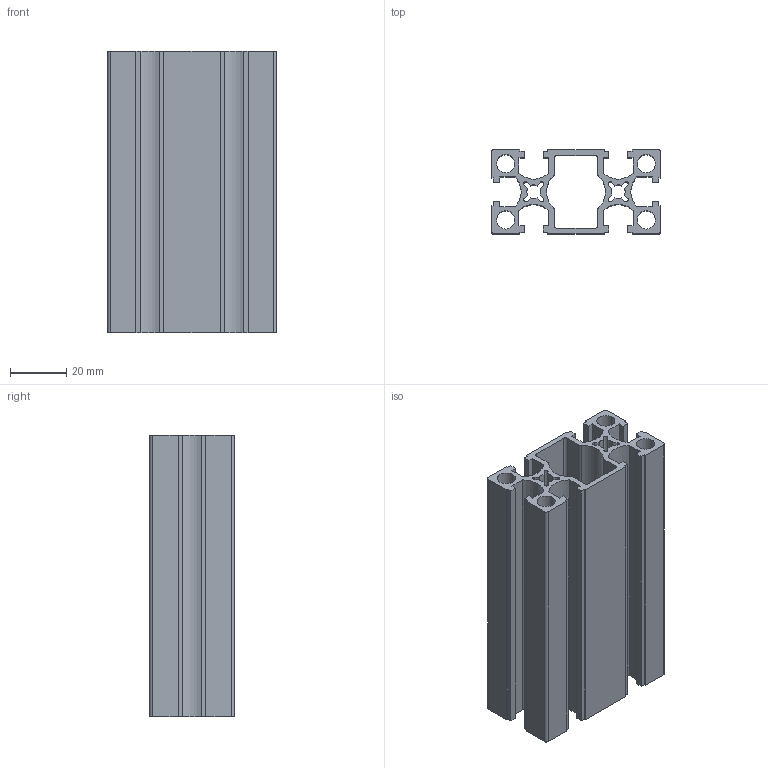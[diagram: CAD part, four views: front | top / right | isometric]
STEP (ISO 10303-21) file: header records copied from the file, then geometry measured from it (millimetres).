
FILE_DESCRIPTION(/* description */ (''),/* implementation_level */ '2;1');
FILE_NAME(/* name */ 'C:\Users\Owner\Documents\硯聰\Inv材料庫-3D新型錄\AM-(鋁擠)\6系列\AM6-3060_100L.stp',/* time_stamp */ '2019-02-21T14:26:17+08:00',/* author */ ('Owner'),/* organization */ (''),/* preprocessor_version */ 'ST-DEVELOPER v16.1',/* originating_system */ 'Autodesk Inventor 2016',/* authorisation */ '');
FILE_SCHEMA (('AUTOMOTIVE_DESIGN { 1 0 10303 214 3 1 1 }'));
Length unit declared in the file: millimetre
Products named in the file (1): AM6-3060_100L
Bounding box: 60 x 30 x 100 mm (x, y, z)
Volume: 59277.4 mm3; surface area: 57278.9 mm2
Topology: 1 solids, 1 shells, 134 faces, 396 edges, 264 vertices
Faces by surface type: plane 94, cylinder 40
Full cylindrical faces by diameter (mm): 6.5 x4
Entity records: 4492 total; most frequent: CARTESIAN_POINT 791, ORIENTED_EDGE 784, DIRECTION 742, EDGE_CURVE 392, LINE 312, VECTOR 312, VERTEX_POINT 264, AXIS2_PLACEMENT_3D 215
